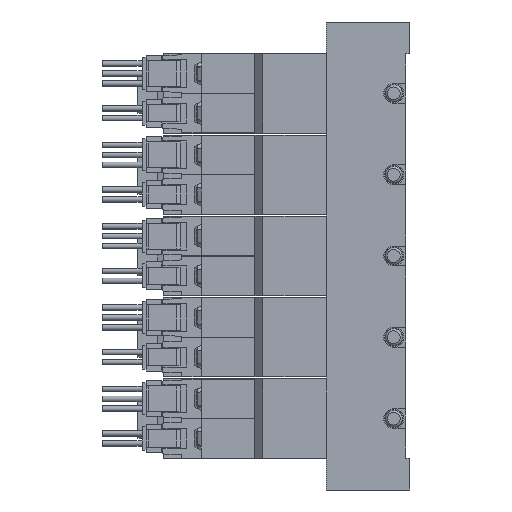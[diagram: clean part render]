
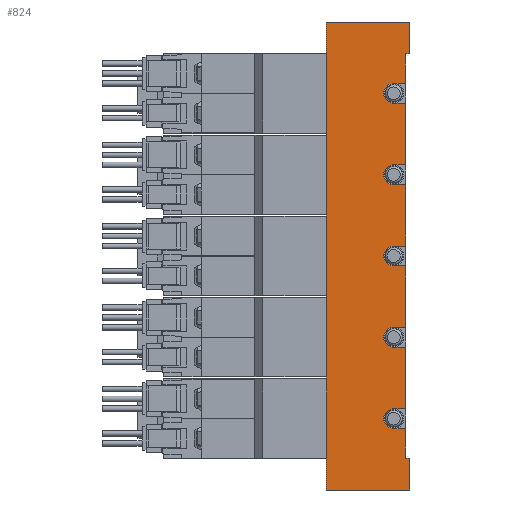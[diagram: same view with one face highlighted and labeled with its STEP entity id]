
A CAD part, left-side view. The second image highlights one B-rep face of the part: STEP entity #824.
In plain terms, the highlighted planar face has unit normal (-1, 0, 0) as drawn and (1, 0, 0) by its records, which use the part's own axes.
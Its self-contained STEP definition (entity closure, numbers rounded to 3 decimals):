
#824=ADVANCED_FACE('',(#1686),#1687,.F.);
#1686=FACE_OUTER_BOUND('',#2726,.T.);
#1687=PLANE('',#2727);
#2726=EDGE_LOOP('',(#5905,#5906,#5907,#5908,#5909,#5910,#5911,#5912,#5913,#5914,#5915,#5916,#5917,#5918,#5919,#5920,#5921,#5922,#5923,#5924,#5925,#5926,#5927,#5928,#5929,#5930,#5931,#5932));
#2727=AXIS2_PLACEMENT_3D('',#5933,#5934,#5935);
#5905=ORIENTED_EDGE('',*,*,#7491,.T.);
#5906=ORIENTED_EDGE('',*,*,#7492,.T.);
#5907=ORIENTED_EDGE('',*,*,#7493,.F.);
#5908=ORIENTED_EDGE('',*,*,#7494,.F.);
#5909=ORIENTED_EDGE('',*,*,#7495,.T.);
#5910=ORIENTED_EDGE('',*,*,#7496,.T.);
#5911=ORIENTED_EDGE('',*,*,#7497,.T.);
#5912=ORIENTED_EDGE('',*,*,#7498,.F.);
#5913=ORIENTED_EDGE('',*,*,#7499,.F.);
#5914=ORIENTED_EDGE('',*,*,#7500,.F.);
#5915=ORIENTED_EDGE('',*,*,#7501,.T.);
#5916=ORIENTED_EDGE('',*,*,#7502,.F.);
#5917=ORIENTED_EDGE('',*,*,#7503,.F.);
#5918=ORIENTED_EDGE('',*,*,#7504,.F.);
#5919=ORIENTED_EDGE('',*,*,#7505,.T.);
#5920=ORIENTED_EDGE('',*,*,#7506,.F.);
#5921=ORIENTED_EDGE('',*,*,#7507,.F.);
#5922=ORIENTED_EDGE('',*,*,#7508,.F.);
#5923=ORIENTED_EDGE('',*,*,#7509,.T.);
#5924=ORIENTED_EDGE('',*,*,#7510,.F.);
#5925=ORIENTED_EDGE('',*,*,#7482,.F.);
#5926=ORIENTED_EDGE('',*,*,#7511,.F.);
#5927=ORIENTED_EDGE('',*,*,#7512,.T.);
#5928=ORIENTED_EDGE('',*,*,#7473,.F.);
#5929=ORIENTED_EDGE('',*,*,#7513,.F.);
#5930=ORIENTED_EDGE('',*,*,#7514,.F.);
#5931=ORIENTED_EDGE('',*,*,#7515,.T.);
#5932=ORIENTED_EDGE('',*,*,#7516,.T.);
#5933=CARTESIAN_POINT('',(17.5,1.0,59.0));
#5934=DIRECTION('',(-1.0,0.0,0.0));
#5935=DIRECTION('',(0.0,0.0,1.0));
#7473=EDGE_CURVE('',#9192,#9193,#9194,.T.);
#7482=EDGE_CURVE('',#9209,#9211,#9212,.T.);
#7491=EDGE_CURVE('',#9228,#9229,#9230,.T.);
#7492=EDGE_CURVE('',#9229,#9231,#9232,.T.);
#7493=EDGE_CURVE('',#9233,#9231,#9234,.T.);
#7494=EDGE_CURVE('',#9235,#9233,#9236,.T.);
#7495=EDGE_CURVE('',#9235,#9237,#9238,.T.);
#7496=EDGE_CURVE('',#9237,#9239,#9240,.T.);
#7497=EDGE_CURVE('',#9239,#9241,#9242,.T.);
#7498=EDGE_CURVE('',#9243,#9241,#9244,.T.);
#7499=EDGE_CURVE('',#9245,#9243,#9246,.T.);
#7500=EDGE_CURVE('',#9247,#9245,#9248,.T.);
#7501=EDGE_CURVE('',#9247,#9249,#9250,.T.);
#7502=EDGE_CURVE('',#9251,#9249,#9252,.T.);
#7503=EDGE_CURVE('',#9253,#9251,#9254,.T.);
#7504=EDGE_CURVE('',#9255,#9253,#9256,.T.);
#7505=EDGE_CURVE('',#9255,#9257,#9258,.T.);
#7506=EDGE_CURVE('',#9259,#9257,#9260,.T.);
#7507=EDGE_CURVE('',#9261,#9259,#9262,.T.);
#7508=EDGE_CURVE('',#9263,#9261,#9264,.T.);
#7509=EDGE_CURVE('',#9263,#9265,#9266,.T.);
#7510=EDGE_CURVE('',#9211,#9265,#9267,.T.);
#7511=EDGE_CURVE('',#9268,#9209,#9269,.T.);
#7512=EDGE_CURVE('',#9268,#9193,#9270,.T.);
#7513=EDGE_CURVE('',#9271,#9192,#9272,.T.);
#7514=EDGE_CURVE('',#9273,#9271,#9274,.T.);
#7515=EDGE_CURVE('',#9273,#9275,#9276,.T.);
#7516=EDGE_CURVE('',#9275,#9228,#9277,.T.);
#9192=VERTEX_POINT('',#12042);
#9193=VERTEX_POINT('',#12043);
#9194=LINE('',#12044,#12045);
#9209=VERTEX_POINT('',#12064);
#9211=VERTEX_POINT('',#12067);
#9212=CIRCLE('',#12068,2.5);
#9228=VERTEX_POINT('',#12132);
#9229=VERTEX_POINT('',#12133);
#9230=LINE('',#12134,#12135);
#9231=VERTEX_POINT('',#12136);
#9232=LINE('',#12137,#12138);
#9233=VERTEX_POINT('',#12139);
#9234=LINE('',#12140,#12141);
#9235=VERTEX_POINT('',#12142);
#9236=LINE('',#12143,#12144);
#9237=VERTEX_POINT('',#12145);
#9238=LINE('',#12146,#12147);
#9239=VERTEX_POINT('',#12148);
#9240=LINE('',#12149,#12150);
#9241=VERTEX_POINT('',#12151);
#9242=LINE('',#12152,#12153);
#9243=VERTEX_POINT('',#12154);
#9244=LINE('',#12155,#12156);
#9245=VERTEX_POINT('',#12157);
#9246=CIRCLE('',#12158,2.5);
#9247=VERTEX_POINT('',#12159);
#9248=LINE('',#12160,#12161);
#9249=VERTEX_POINT('',#12162);
#9250=LINE('',#12163,#12164);
#9251=VERTEX_POINT('',#12165);
#9252=LINE('',#12166,#12167);
#9253=VERTEX_POINT('',#12168);
#9254=CIRCLE('',#12169,2.5);
#9255=VERTEX_POINT('',#12170);
#9256=LINE('',#12171,#12172);
#9257=VERTEX_POINT('',#12173);
#9258=LINE('',#12174,#12175);
#9259=VERTEX_POINT('',#12176);
#9260=LINE('',#12177,#12178);
#9261=VERTEX_POINT('',#12179);
#9262=CIRCLE('',#12180,2.5);
#9263=VERTEX_POINT('',#12181);
#9264=LINE('',#12182,#12183);
#9265=VERTEX_POINT('',#12184);
#9266=LINE('',#12185,#12186);
#9267=LINE('',#12187,#12188);
#9268=VERTEX_POINT('',#12189);
#9269=LINE('',#12190,#12191);
#9270=LINE('',#12192,#12193);
#9271=VERTEX_POINT('',#12194);
#9272=CIRCLE('',#12195,2.5);
#9273=VERTEX_POINT('',#12196);
#9274=LINE('',#12197,#12198);
#9275=VERTEX_POINT('',#12199);
#9276=LINE('',#12200,#12201);
#9277=LINE('',#12202,#12203);
#12042=CARTESIAN_POINT('',(17.5,4.0,-38.5));
#12043=CARTESIAN_POINT('',(17.5,1.0,-38.5));
#12044=CARTESIAN_POINT('',(17.5,1.0,-38.5));
#12045=VECTOR('',#13743,1.0);
#12064=CARTESIAN_POINT('',(17.5,4.0,-23.0));
#12067=CARTESIAN_POINT('',(17.5,4.0,-18.0));
#12068=AXIS2_PLACEMENT_3D('',#13758,#13759,#13760);
#12132=CARTESIAN_POINT('',(17.5,0.0,-51.0));
#12133=CARTESIAN_POINT('',(17.5,0.0,-59.0));
#12134=CARTESIAN_POINT('',(17.5,0.0,-51.0));
#12135=VECTOR('',#13774,1.0);
#12136=CARTESIAN_POINT('',(17.5,21.0,-59.0));
#12137=CARTESIAN_POINT('',(17.5,1.0,-59.0));
#12138=VECTOR('',#13775,1.0);
#12139=CARTESIAN_POINT('',(17.5,21.0,59.0));
#12140=CARTESIAN_POINT('',(17.5,21.0,59.0));
#12141=VECTOR('',#13776,1.0);
#12142=CARTESIAN_POINT('',(17.5,0.0,59.0));
#12143=CARTESIAN_POINT('',(17.5,1.0,59.0));
#12144=VECTOR('',#13777,1.0);
#12145=CARTESIAN_POINT('',(17.5,0.0,51.0));
#12146=CARTESIAN_POINT('',(17.5,0.0,59.0));
#12147=VECTOR('',#13778,1.0);
#12148=CARTESIAN_POINT('',(17.5,1.0,51.0));
#12149=CARTESIAN_POINT('',(17.5,0.0,51.0));
#12150=VECTOR('',#13779,1.0);
#12151=CARTESIAN_POINT('',(17.5,1.0,43.5));
#12152=CARTESIAN_POINT('',(17.5,1.0,59.0));
#12153=VECTOR('',#13780,1.0);
#12154=CARTESIAN_POINT('',(17.5,4.0,43.5));
#12155=CARTESIAN_POINT('',(17.5,1.0,43.5));
#12156=VECTOR('',#13781,1.0);
#12157=CARTESIAN_POINT('',(17.5,4.0,38.5));
#12158=AXIS2_PLACEMENT_3D('',#13782,#13783,#13784);
#12159=CARTESIAN_POINT('',(17.5,1.0,38.5));
#12160=CARTESIAN_POINT('',(17.5,1.0,38.5));
#12161=VECTOR('',#13785,1.0);
#12162=CARTESIAN_POINT('',(17.5,1.0,23.0));
#12163=CARTESIAN_POINT('',(17.5,1.0,59.0));
#12164=VECTOR('',#13786,1.0);
#12165=CARTESIAN_POINT('',(17.5,4.0,23.0));
#12166=CARTESIAN_POINT('',(17.5,1.0,23.0));
#12167=VECTOR('',#13787,1.0);
#12168=CARTESIAN_POINT('',(17.5,4.0,18.0));
#12169=AXIS2_PLACEMENT_3D('',#13788,#13789,#13790);
#12170=CARTESIAN_POINT('',(17.5,1.0,18.0));
#12171=CARTESIAN_POINT('',(17.5,1.0,18.0));
#12172=VECTOR('',#13791,1.0);
#12173=CARTESIAN_POINT('',(17.5,1.0,2.5));
#12174=CARTESIAN_POINT('',(17.5,1.0,59.0));
#12175=VECTOR('',#13792,1.0);
#12176=CARTESIAN_POINT('',(17.5,4.0,2.5));
#12177=CARTESIAN_POINT('',(17.5,1.0,2.5));
#12178=VECTOR('',#13793,1.0);
#12179=CARTESIAN_POINT('',(17.5,4.0,-2.5));
#12180=AXIS2_PLACEMENT_3D('',#13794,#13795,#13796);
#12181=CARTESIAN_POINT('',(17.5,1.0,-2.5));
#12182=CARTESIAN_POINT('',(17.5,1.0,-2.5));
#12183=VECTOR('',#13797,1.0);
#12184=CARTESIAN_POINT('',(17.5,1.0,-18.0));
#12185=CARTESIAN_POINT('',(17.5,1.0,59.0));
#12186=VECTOR('',#13798,1.0);
#12187=CARTESIAN_POINT('',(17.5,1.0,-18.0));
#12188=VECTOR('',#13799,1.0);
#12189=CARTESIAN_POINT('',(17.5,1.0,-23.0));
#12190=CARTESIAN_POINT('',(17.5,1.0,-23.0));
#12191=VECTOR('',#13800,1.0);
#12192=CARTESIAN_POINT('',(17.5,1.0,59.0));
#12193=VECTOR('',#13801,1.0);
#12194=CARTESIAN_POINT('',(17.5,4.0,-43.5));
#12195=AXIS2_PLACEMENT_3D('',#13802,#13803,#13804);
#12196=CARTESIAN_POINT('',(17.5,1.0,-43.5));
#12197=CARTESIAN_POINT('',(17.5,1.0,-43.5));
#12198=VECTOR('',#13805,1.0);
#12199=CARTESIAN_POINT('',(17.5,1.0,-51.0));
#12200=CARTESIAN_POINT('',(17.5,1.0,59.0));
#12201=VECTOR('',#13806,1.0);
#12202=CARTESIAN_POINT('',(17.5,4.0,-51.0));
#12203=VECTOR('',#13807,1.0);
#13743=DIRECTION('',(0.0,-1.0,0.0));
#13758=CARTESIAN_POINT('',(17.5,4.0,-20.5));
#13759=DIRECTION('',(1.0,0.0,-0.0));
#13760=DIRECTION('',(0.0,0.0,1.0));
#13774=DIRECTION('',(0.0,0.0,-1.0));
#13775=DIRECTION('',(0.0,1.0,0.0));
#13776=DIRECTION('',(0.0,0.0,-1.0));
#13777=DIRECTION('',(0.0,1.0,0.0));
#13778=DIRECTION('',(0.0,0.0,-1.0));
#13779=DIRECTION('',(0.0,1.0,0.0));
#13780=DIRECTION('',(0.0,0.0,-1.0));
#13781=DIRECTION('',(0.0,-1.0,0.0));
#13782=CARTESIAN_POINT('',(17.5,4.0,41.0));
#13783=DIRECTION('',(1.0,0.0,-0.0));
#13784=DIRECTION('',(0.0,0.0,1.0));
#13785=DIRECTION('',(0.0,1.0,0.0));
#13786=DIRECTION('',(0.0,0.0,-1.0));
#13787=DIRECTION('',(0.0,-1.0,0.0));
#13788=CARTESIAN_POINT('',(17.5,4.0,20.5));
#13789=DIRECTION('',(1.0,0.0,-0.0));
#13790=DIRECTION('',(0.0,0.0,1.0));
#13791=DIRECTION('',(0.0,1.0,0.0));
#13792=DIRECTION('',(0.0,0.0,-1.0));
#13793=DIRECTION('',(0.0,-1.0,0.0));
#13794=CARTESIAN_POINT('',(17.5,4.0,0.0));
#13795=DIRECTION('',(1.0,0.0,-0.0));
#13796=DIRECTION('',(0.0,0.0,1.0));
#13797=DIRECTION('',(0.0,1.0,0.0));
#13798=DIRECTION('',(0.0,0.0,-1.0));
#13799=DIRECTION('',(0.0,-1.0,0.0));
#13800=DIRECTION('',(0.0,1.0,0.0));
#13801=DIRECTION('',(0.0,0.0,-1.0));
#13802=CARTESIAN_POINT('',(17.5,4.0,-41.0));
#13803=DIRECTION('',(1.0,0.0,-0.0));
#13804=DIRECTION('',(0.0,0.0,1.0));
#13805=DIRECTION('',(0.0,1.0,0.0));
#13806=DIRECTION('',(0.0,0.0,-1.0));
#13807=DIRECTION('',(0.0,-1.0,0.0));
